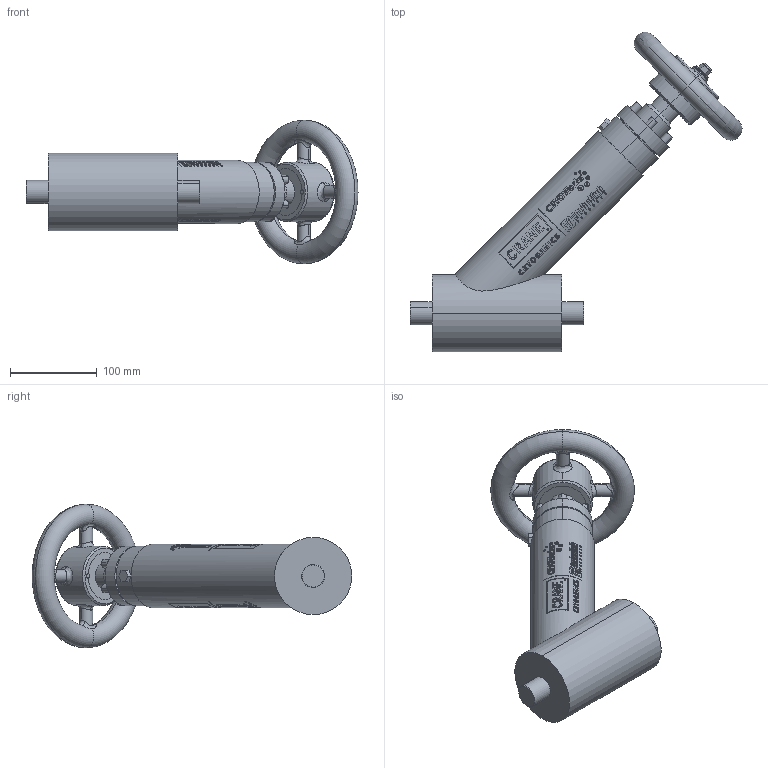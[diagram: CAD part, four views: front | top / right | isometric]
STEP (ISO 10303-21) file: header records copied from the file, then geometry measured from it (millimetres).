
FILE_DESCRIPTION (( 'STEP AP203' ), '1' );
FILE_NAME ('0.75IN Y-PATTERN MANUAL CRANE BELLOWS SEAL VALVE.step', '2025-12-17T20:05:06', ( '' ), ( '' ), 'SwSTEP 2.0', 'SolidWorks 2023', '' );
FILE_SCHEMA (( 'CONFIG_CONTROL_DESIGN' ));
Length unit declared in the file: inch
Products named in the file (1): 0.75IN Y-PATTERN MANUAL CRANE BELLOWS SEAL VALVE
Bounding box: 381.88 x 367.6 x 165.1 mm (x, y, z)
Volume: 2411370.1 mm3; surface area: 187739.9 mm2
Topology: 1 solids, 1 shells, 1322 faces, 3401 edges, 2262 vertices
Faces by surface type: plane 773, cylinder 373, bspline 140, cone 26, torus 10
Full cylindrical faces by diameter (mm): 0.896 x2, 0.982 x2, 1.067 x2, 1.223 x2, 1.381 x2, 1.78 x2, 1.842 x2, 2.045 x2, 2.179 x2, 2.284 x2, 2.405 x2, 2.744 x2, 3.706 x2, 4.578 x2, 5.539 x2, 6.45 x2, 73.025 x1
Entity records: 77976 total; most frequent: CARTESIAN_POINT 48736, ORIENTED_EDGE 6704, DIRECTION 5010, EDGE_CURVE 3352, VERTEX_POINT 2262, AXIS2_PLACEMENT_3D 1687, VECTOR 1636, LINE 1636
